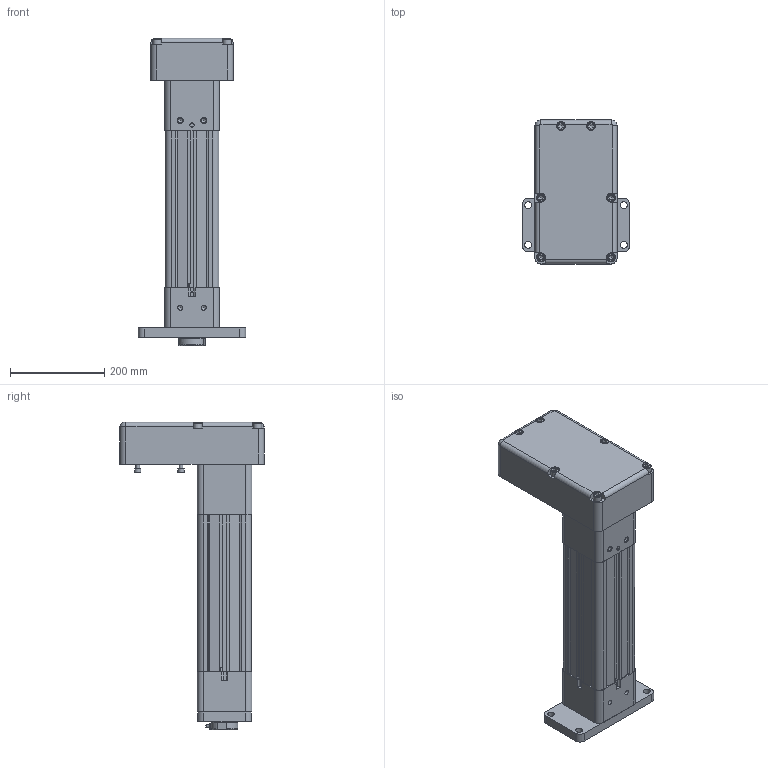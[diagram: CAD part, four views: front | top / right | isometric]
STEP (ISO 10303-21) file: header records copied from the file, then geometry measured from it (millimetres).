
FILE_DESCRIPTION (( 'STEP AP203' ), '1' );
FILE_NAME ('RSA64_RN10_SM200.000_RS-495209-1.step', '2025-08-18T13:37:20', ( '' ), ( '' ), 'SwSTEP 2.0', 'SolidWorks 2024', '' );
FILE_SCHEMA (( 'CONFIG_CONTROL_DESIGN' ));
Length unit declared in the file: inch
Products named in the file (4): RSA64_RN10_SM200.000_RS-495209-1; tempJoin0_21649322_RSA64_RN10_SM200.000_RS-495209-1; Base_RSA64_RN10_SM200.000_RS-495209-1; tempJoin0_21649484_RSA64_RN10_SM200.000_RS-495209-1
Assembly tree (3 placements, depth 2):
  RSA64_RN10_SM200.000_RS-495209-1
    tempJoin0_21649322_RSA64_RN10_SM200.000_RS-495209-1
    tempJoin0_21649484_RSA64_RN10_SM200.000_RS-495209-1
    Base_RSA64_RN10_SM200.000_RS-495209-1
Bounding box: 228.6 x 306.07 x 653.11 mm (x, y, z)
Volume: 9563612.5 mm3; surface area: 1038058.7 mm2
Topology: 5 solids, 25 shells, 1485 faces, 3676 edges, 2349 vertices
Faces by surface type: plane 786, cylinder 530, cone 130, torus 25, bspline 10, sphere 4
Full cylindrical faces by diameter (mm): 5 x4, 5.41 x1, 6.35 x4, 6.355 x2, 7.366 x2, 8 x8, 8.382 x4, 8.433 x2, 9.754 x4, 10.2 x12, 10.25 x8, 12 x16, 12.5 x10, 12.7 x10, 13 x4, 13.106 x6, 14.681 x4, 18 x20, 19.1 x6, 19.837 x4, 20.574 x6, 25 x1, 29.794 x2, 40.589 x1, 44.45 x1, 46.05 x1, 47.396 x1, 49.35 x2, 54.762 x1, 55.296 x2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
Entity records: 42893 total; most frequent: CARTESIAN_POINT 8132, DIRECTION 7487, ORIENTED_EDGE 6536, EDGE_CURVE 3268, AXIS2_PLACEMENT_3D 2821, VERTEX_POINT 2237, EDGE_LOOP 1941, VECTOR 1845
